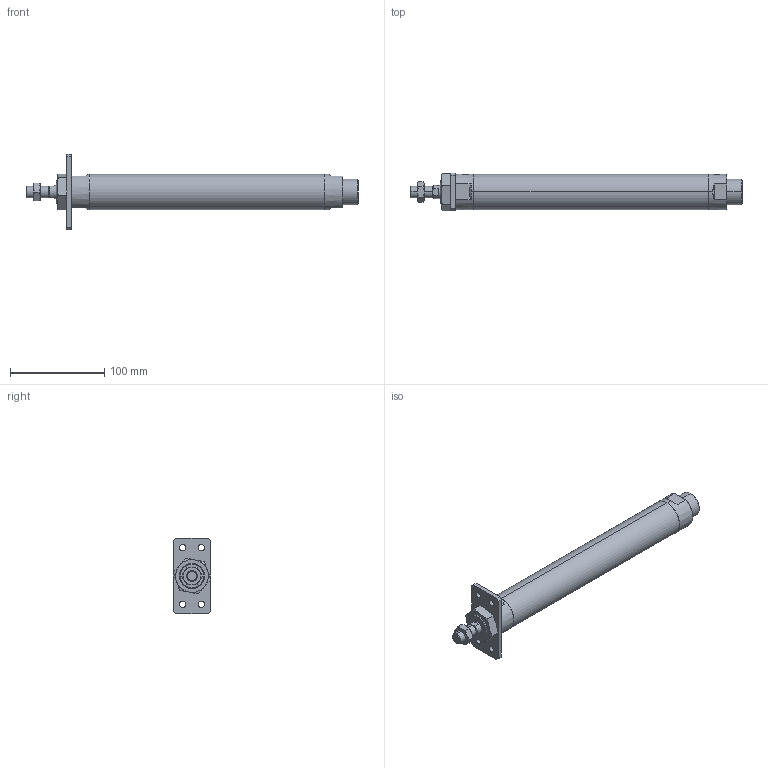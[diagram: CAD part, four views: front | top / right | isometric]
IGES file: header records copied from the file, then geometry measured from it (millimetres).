
Start section: SolidWorks IGES file using analytic representation for surfaces
Global section: file name: C:\Users\Toshiba\Desktop\J#2-32-200-A.IGS; native system: SolidWorks 2014; preprocessor: SolidWorks 2014; author: Toshiba; date: 160308.154219; units: millimetre
Bounding box: 353 x 40 x 80 mm (x, y, z)
Surface area: 52406.2 mm2 (no closed solid volume)
Topology: 0 solids, 0 shells, 114 faces, 2060 edges, 2056 vertices
Faces by surface type: bspline 67, revolution 47
